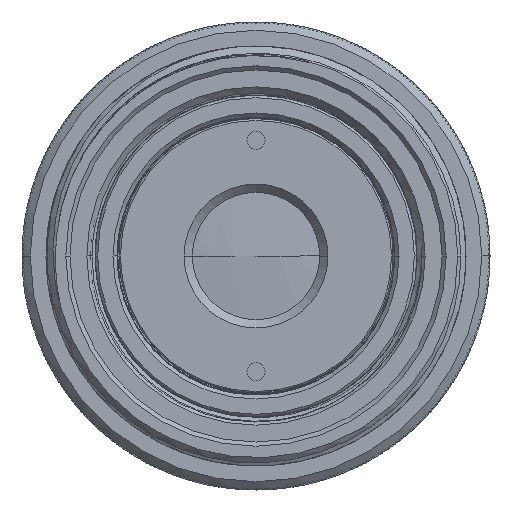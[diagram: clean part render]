
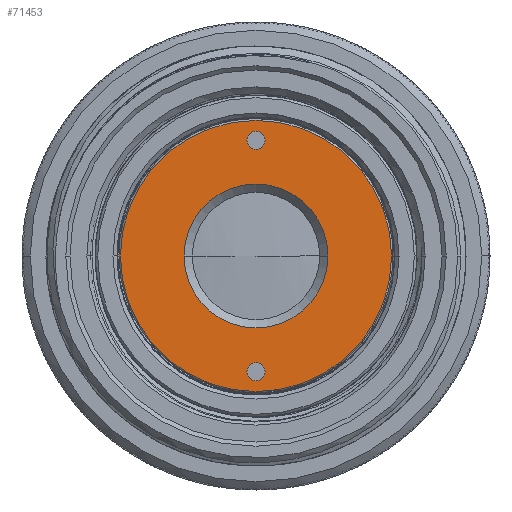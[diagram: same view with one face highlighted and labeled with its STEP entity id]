
A CAD part, front view. The second image highlights one B-rep face of the part: STEP entity #71453.
In plain terms, the highlighted planar face has unit normal (0, -1, 0).
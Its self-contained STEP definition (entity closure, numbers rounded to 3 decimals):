
#28255=CARTESIAN_POINT('',(0.,10.85,-7.));
#28256=DIRECTION('',(0.,-1.,0.));
#28257=DIRECTION('',(0.,0.,-1.));
#28258=AXIS2_PLACEMENT_3D('',#28255,#28256,#28257);
#28260=CARTESIAN_POINT('',(0.,10.85,-7.));
#28261=DIRECTION('',(0.,-1.,0.));
#28262=DIRECTION('',(0.,0.,1.));
#28263=AXIS2_PLACEMENT_3D('',#28260,#28261,#28262);
#28265=CARTESIAN_POINT('',(0.,10.85,7.));
#28266=DIRECTION('',(0.,-1.,0.));
#28267=DIRECTION('',(0.,0.,-1.));
#28268=AXIS2_PLACEMENT_3D('',#28265,#28266,#28267);
#28270=CARTESIAN_POINT('',(0.,10.85,7.));
#28271=DIRECTION('',(0.,-1.,0.));
#28272=DIRECTION('',(0.,0.,1.));
#28273=AXIS2_PLACEMENT_3D('',#28270,#28271,#28272);
#28275=CARTESIAN_POINT('',(0.,10.85,0.));
#28276=DIRECTION('',(0.,1.,0.));
#28277=DIRECTION('',(1.,0.,0.));
#28278=AXIS2_PLACEMENT_3D('',#28275,#28276,#28277);
#28280=CARTESIAN_POINT('',(0.,10.85,0.));
#28281=DIRECTION('',(0.,1.,0.));
#28282=DIRECTION('',(-1.,0.,0.));
#28283=AXIS2_PLACEMENT_3D('',#28280,#28281,#28282);
#28285=CARTESIAN_POINT('',(0.,10.85,0.));
#28286=DIRECTION('',(0.,1.,0.));
#28287=DIRECTION('',(1.,0.,0.));
#28288=AXIS2_PLACEMENT_3D('',#28285,#28286,#28287);
#28290=CARTESIAN_POINT('',(0.,10.85,0.));
#28291=DIRECTION('',(0.,1.,0.));
#28292=DIRECTION('',(-1.,0.,0.));
#28293=AXIS2_PLACEMENT_3D('',#28290,#28291,#28292);
#41772=CARTESIAN_POINT('',(0.,10.85,-7.55));
#41773=CARTESIAN_POINT('',(0.,10.85,-6.45));
#41774=VERTEX_POINT('',#41772);
#41775=VERTEX_POINT('',#41773);
#41776=CARTESIAN_POINT('',(0.,10.85,6.45));
#41777=CARTESIAN_POINT('',(0.,10.85,7.55));
#41778=VERTEX_POINT('',#41776);
#41779=VERTEX_POINT('',#41777);
#41780=CARTESIAN_POINT('',(4.35,10.85,0.));
#41781=CARTESIAN_POINT('',(-4.35,10.85,0.));
#41782=VERTEX_POINT('',#41780);
#41783=VERTEX_POINT('',#41781);
#41792=CARTESIAN_POINT('',(8.2,10.85,0.));
#41793=CARTESIAN_POINT('',(-8.2,10.85,0.));
#41794=VERTEX_POINT('',#41792);
#41795=VERTEX_POINT('',#41793);
#71426=CARTESIAN_POINT('',(0.,10.85,0.));
#71427=DIRECTION('',(0.,1.,0.));
#71428=DIRECTION('',(1.,0.,0.));
#71429=AXIS2_PLACEMENT_3D('',#71426,#71427,#71428);
#71430=PLANE('',#71429);
#71431=ORIENTED_EDGE('',*,*,#71313,.T.);
#71432=ORIENTED_EDGE('',*,*,#71420,.T.);
#71433=EDGE_LOOP('',(#71431,#71432));
#71434=FACE_OUTER_BOUND('',#71433,.F.);
#71436=ORIENTED_EDGE('',*,*,#71435,.T.);
#71438=ORIENTED_EDGE('',*,*,#71437,.T.);
#71439=EDGE_LOOP('',(#71436,#71438));
#71440=FACE_BOUND('',#71439,.F.);
#71442=ORIENTED_EDGE('',*,*,#71441,.F.);
#71444=ORIENTED_EDGE('',*,*,#71443,.F.);
#71445=EDGE_LOOP('',(#71442,#71444));
#71446=FACE_BOUND('',#71445,.F.);
#71448=ORIENTED_EDGE('',*,*,#71447,.T.);
#71450=ORIENTED_EDGE('',*,*,#71449,.T.);
#71451=EDGE_LOOP('',(#71448,#71450));
#71452=FACE_BOUND('',#71451,.F.);
#28259=CIRCLE('',#28258,0.55);
#28264=CIRCLE('',#28263,0.55);
#28269=CIRCLE('',#28268,0.55);
#28274=CIRCLE('',#28273,0.55);
#28279=CIRCLE('',#28278,4.35);
#28284=CIRCLE('',#28283,4.35);
#28289=CIRCLE('',#28288,8.2);
#28294=CIRCLE('',#28293,8.2);
#71313=EDGE_CURVE('',#41794,#41795,#28289,.T.);
#71420=EDGE_CURVE('',#41795,#41794,#28294,.T.);
#71435=EDGE_CURVE('',#41778,#41779,#28269,.T.);
#71437=EDGE_CURVE('',#41779,#41778,#28274,.T.);
#71441=EDGE_CURVE('',#41782,#41783,#28279,.T.);
#71443=EDGE_CURVE('',#41783,#41782,#28284,.T.);
#71447=EDGE_CURVE('',#41774,#41775,#28259,.T.);
#71449=EDGE_CURVE('',#41775,#41774,#28264,.T.);
#71453=ADVANCED_FACE('',(#71434,#71440,#71446,#71452),#71430,.F.);
